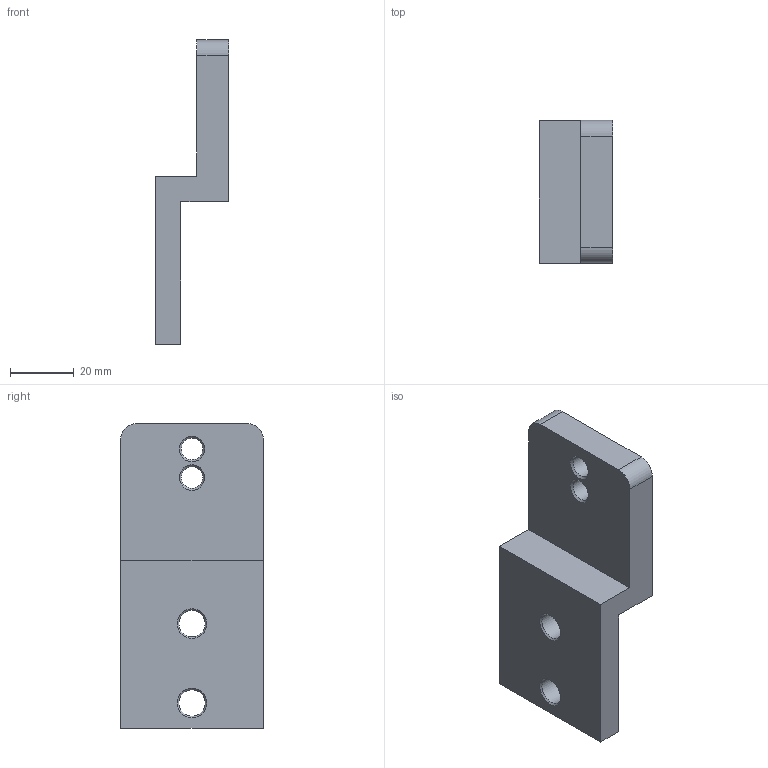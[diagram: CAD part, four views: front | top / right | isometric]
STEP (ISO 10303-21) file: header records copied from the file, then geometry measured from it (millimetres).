
FILE_DESCRIPTION(/* description */ (''),/* implementation_level */ '2;1');
FILE_NAME(/* name */ 'SYSTEM_SUPPORT_16.stp',/* time_stamp */ '2017-12-06T14:29:36+01:00',/* author */ (''),/* organization */ (''),/* preprocessor_version */ 'ST-DEVELOPER v16',/* originating_system */ 'SIEMENS PLM Software NX 10.0',/* authorisation */ '');
FILE_SCHEMA (('AP203_CONFIGURATION_CONTROLLED_3D_DESIGN_OF_MECHANICAL_PARTS_AND_ASSEMBLIES_MIM_LF { 1 0 10303 403 2 1 2}'));
Length unit declared in the file: millimetre
Products named in the file (1): turc1DB80072j4lg
Bounding box: 23 x 45 x 96 mm (x, y, z)
Volume: 42100.8 mm3; surface area: 13019 mm2
Topology: 1 solids, 1 shells, 24 faces, 67 edges, 45 vertices
Faces by surface type: plane 10, cone 8, cylinder 6
Full cylindrical faces by diameter (mm): 6.8 x2, 8.3 x2
Entity records: 769 total; most frequent: DIRECTION 124, CARTESIAN_POINT 111, ORIENTED_EDGE 92, AXIS2_PLACEMENT_3D 49, EDGE_CURVE 46, EDGE_LOOP 44, FACE_BOUND 36, VERTEX_POINT 36
